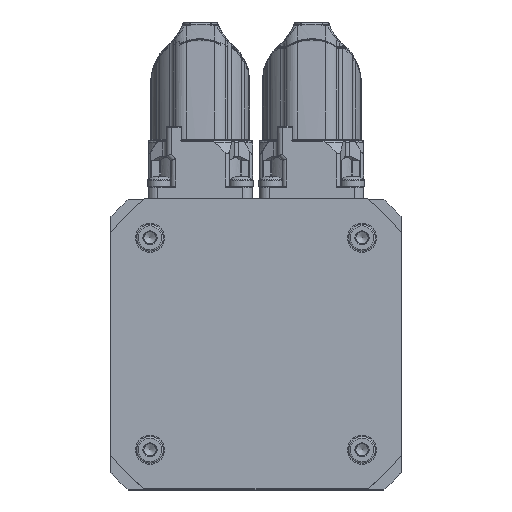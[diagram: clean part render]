
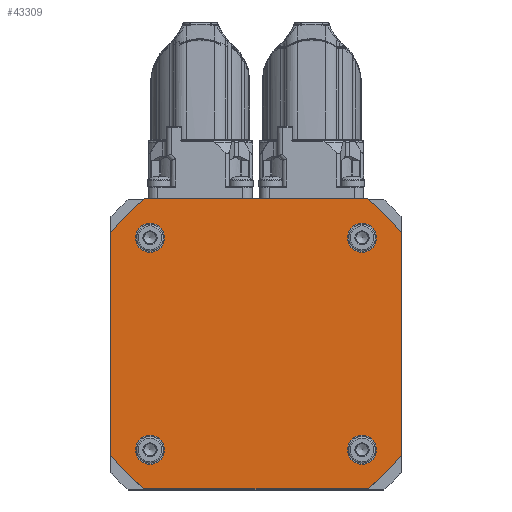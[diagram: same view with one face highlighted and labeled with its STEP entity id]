
A CAD part, top view. The second image highlights one B-rep face of the part: STEP entity #43309.
In plain terms, the highlighted planar face has unit normal (0, 0, 1).
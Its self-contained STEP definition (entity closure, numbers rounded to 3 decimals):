
#5439=LINE('',#64363,#7476);
#5443=LINE('',#64375,#7480);
#5447=LINE('',#64387,#7484);
#5451=LINE('',#64397,#7488);
#7476=VECTOR('',#51625,45.993);
#7480=VECTOR('',#51637,45.993);
#7484=VECTOR('',#51649,45.993);
#7488=VECTOR('',#51661,45.993);
#9486=PLANE('',#46102);
#10215=FACE_BOUND('',#13399,.T.);
#10216=FACE_BOUND('',#13400,.T.);
#10217=FACE_BOUND('',#13401,.T.);
#10218=FACE_BOUND('',#13402,.T.);
#10219=FACE_BOUND('',#13403,.T.);
#13399=EDGE_LOOP('',(#29850));
#13400=EDGE_LOOP('',(#29851));
#13401=EDGE_LOOP('',(#29852));
#13402=EDGE_LOOP('',(#29853));
#13403=EDGE_LOOP('',(#29854,#29855,#29856,#29857,#29858,#29859,#29860,#29861));
#16438=CIRCLE('',#46071,3.);
#16440=CIRCLE('',#46075,3.);
#16442=CIRCLE('',#46079,3.);
#16444=CIRCLE('',#46083,3.);
#16447=CIRCLE('',#46088,37.8);
#16449=CIRCLE('',#46092,37.8);
#16451=CIRCLE('',#46096,37.8);
#16453=CIRCLE('',#46100,37.8);
#19082=VERTEX_POINT('',#64327);
#19084=VERTEX_POINT('',#64333);
#19086=VERTEX_POINT('',#64339);
#19088=VERTEX_POINT('',#64345);
#19092=VERTEX_POINT('',#64354);
#19093=VERTEX_POINT('',#64356);
#19095=VERTEX_POINT('',#64362);
#19097=VERTEX_POINT('',#64368);
#19099=VERTEX_POINT('',#64374);
#19101=VERTEX_POINT('',#64380);
#19103=VERTEX_POINT('',#64386);
#19105=VERTEX_POINT('',#64392);
#23258=EDGE_CURVE('',#19082,#19082,#16438,.T.);
#23260=EDGE_CURVE('',#19084,#19084,#16440,.T.);
#23262=EDGE_CURVE('',#19086,#19086,#16442,.T.);
#23264=EDGE_CURVE('',#19088,#19088,#16444,.T.);
#23268=EDGE_CURVE('',#19093,#19092,#16447,.T.);
#23271=EDGE_CURVE('',#19095,#19093,#5439,.T.);
#23274=EDGE_CURVE('',#19097,#19095,#16449,.T.);
#23277=EDGE_CURVE('',#19099,#19097,#5443,.T.);
#23280=EDGE_CURVE('',#19101,#19099,#16451,.T.);
#23283=EDGE_CURVE('',#19103,#19101,#5447,.T.);
#23286=EDGE_CURVE('',#19105,#19103,#16453,.T.);
#23289=EDGE_CURVE('',#19092,#19105,#5451,.T.);
#29850=ORIENTED_EDGE('',*,*,#23258,.T.);
#29851=ORIENTED_EDGE('',*,*,#23260,.T.);
#29852=ORIENTED_EDGE('',*,*,#23262,.T.);
#29853=ORIENTED_EDGE('',*,*,#23264,.T.);
#29854=ORIENTED_EDGE('',*,*,#23289,.T.);
#29855=ORIENTED_EDGE('',*,*,#23286,.T.);
#29856=ORIENTED_EDGE('',*,*,#23283,.T.);
#29857=ORIENTED_EDGE('',*,*,#23280,.T.);
#29858=ORIENTED_EDGE('',*,*,#23277,.T.);
#29859=ORIENTED_EDGE('',*,*,#23274,.T.);
#29860=ORIENTED_EDGE('',*,*,#23271,.T.);
#29861=ORIENTED_EDGE('',*,*,#23268,.T.);
#43309=ADVANCED_FACE('',(#10215,#10216,#10217,#10218,#10219),#9486,.T.);
#46071=AXIS2_PLACEMENT_3D('',#64328,#51584,#51585);
#46075=AXIS2_PLACEMENT_3D('',#64334,#51592,#51593);
#46079=AXIS2_PLACEMENT_3D('',#64340,#51600,#51601);
#46083=AXIS2_PLACEMENT_3D('',#64346,#51608,#51609);
#46088=AXIS2_PLACEMENT_3D('',#64357,#51619,#51620);
#46092=AXIS2_PLACEMENT_3D('',#64369,#51631,#51632);
#46096=AXIS2_PLACEMENT_3D('',#64381,#51643,#51644);
#46100=AXIS2_PLACEMENT_3D('',#64393,#51655,#51656);
#46102=AXIS2_PLACEMENT_3D('',#64398,#51662,#51663);
#51584=DIRECTION('center_axis',(0.,0.,-1.));
#51585=DIRECTION('ref_axis',(0.,-1.,0.));
#51592=DIRECTION('center_axis',(0.,0.,-1.));
#51593=DIRECTION('ref_axis',(-1.,0.,0.));
#51600=DIRECTION('center_axis',(0.,0.,-1.));
#51601=DIRECTION('ref_axis',(0.,1.,0.));
#51608=DIRECTION('center_axis',(0.,0.,-1.));
#51609=DIRECTION('ref_axis',(1.,0.,0.));
#51619=DIRECTION('center_axis',(0.,0.,1.));
#51620=DIRECTION('ref_axis',(0.794,0.608,0.));
#51625=DIRECTION('',(0.,1.,0.));
#51631=DIRECTION('center_axis',(0.,0.,1.));
#51632=DIRECTION('ref_axis',(0.608,-0.794,0.));
#51637=DIRECTION('',(1.,0.,0.));
#51643=DIRECTION('center_axis',(0.,0.,1.));
#51644=DIRECTION('ref_axis',(-0.794,-0.608,0.));
#51649=DIRECTION('',(0.,-1.,0.));
#51655=DIRECTION('center_axis',(0.,0.,1.));
#51656=DIRECTION('ref_axis',(-0.608,0.794,0.));
#51661=DIRECTION('',(-1.,0.,0.));
#51662=DIRECTION('center_axis',(0.,0.,1.));
#51663=DIRECTION('ref_axis',(1.,0.,0.));
#64327=CARTESIAN_POINT('',(21.92,-24.92,132.));
#64328=CARTESIAN_POINT('Origin',(21.92,-21.92,132.));
#64333=CARTESIAN_POINT('',(-24.92,-21.92,132.));
#64334=CARTESIAN_POINT('Origin',(-21.92,-21.92,132.));
#64339=CARTESIAN_POINT('',(-21.92,24.92,132.));
#64340=CARTESIAN_POINT('Origin',(-21.92,21.92,132.));
#64345=CARTESIAN_POINT('',(24.92,21.92,132.));
#64346=CARTESIAN_POINT('Origin',(21.92,21.92,132.));
#64354=CARTESIAN_POINT('',(22.997,30.,132.));
#64356=CARTESIAN_POINT('',(30.,22.997,132.));
#64357=CARTESIAN_POINT('Origin',(0.,0.,132.));
#64362=CARTESIAN_POINT('',(30.,-22.997,132.));
#64363=CARTESIAN_POINT('',(30.,-30.,132.));
#64368=CARTESIAN_POINT('',(22.997,-30.,132.));
#64369=CARTESIAN_POINT('Origin',(0.,0.,132.));
#64374=CARTESIAN_POINT('',(-22.997,-30.,132.));
#64375=CARTESIAN_POINT('',(-30.,-30.,132.));
#64380=CARTESIAN_POINT('',(-30.,-22.997,132.));
#64381=CARTESIAN_POINT('Origin',(0.,0.,132.));
#64386=CARTESIAN_POINT('',(-30.,22.997,132.));
#64387=CARTESIAN_POINT('',(-30.,30.,132.));
#64392=CARTESIAN_POINT('',(-22.997,30.,132.));
#64393=CARTESIAN_POINT('Origin',(0.,0.,132.));
#64397=CARTESIAN_POINT('',(30.,30.,132.));
#64398=CARTESIAN_POINT('Origin',(0.,0.,
132.));
